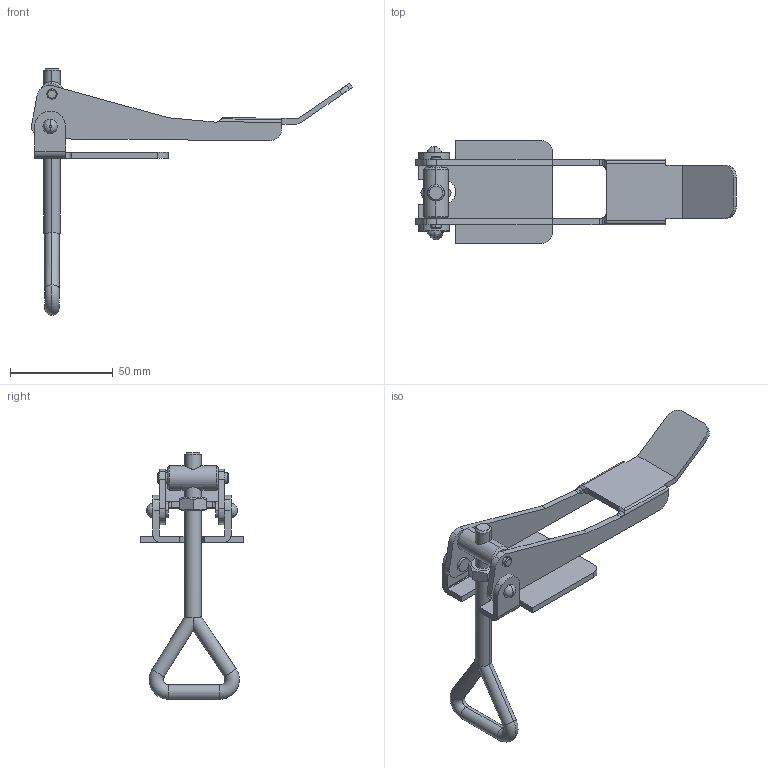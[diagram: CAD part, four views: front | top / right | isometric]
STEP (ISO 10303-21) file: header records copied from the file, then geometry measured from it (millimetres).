
FILE_DESCRIPTION((''),'2;1');
FILE_NAME('3472-90°.stp','2014-03-17T11:24:03',(''),(''),'Mechanical Desktop 2006','Mechanical Desktop 2006',', , ');
FILE_SCHEMA(('CONFIG_CONTROL_DESIGN'));
Length unit declared in the file: millimetre
Products named in the file (7): 3472-90ｰ; BOL M8 123-3; GRIF 1; B軶E  L96; TEIL3; SECHSKANTMUTTER - DIN 555-5 - M8; GRUNDPLATE 3
Assembly tree (7 placements, depth 2):
  3472-90ｰ
    BOL M8 123-3
    GRIF 1
    B軶E  L96
    TEIL3  x2
    SECHSKANTMUTTER - DIN 555-5 - M8
    GRUNDPLATE 3
Bounding box: 156.23 x 50 x 120 mm (x, y, z)
Volume: 37385.3 mm3; surface area: 27256.3 mm2
Topology: 7 solids, 7 shells, 180 faces, 466 edges, 302 vertices
Faces by surface type: cylinder 86, plane 64, cone 18, bspline 6, torus 6
Entity records: 6167 total; most frequent: CARTESIAN_POINT 1689, DIRECTION 947, ORIENTED_EDGE 892, EDGE_CURVE 446, AXIS2_PLACEMENT_3D 369, VERTEX_POINT 288, VECTOR 209, LINE 209
